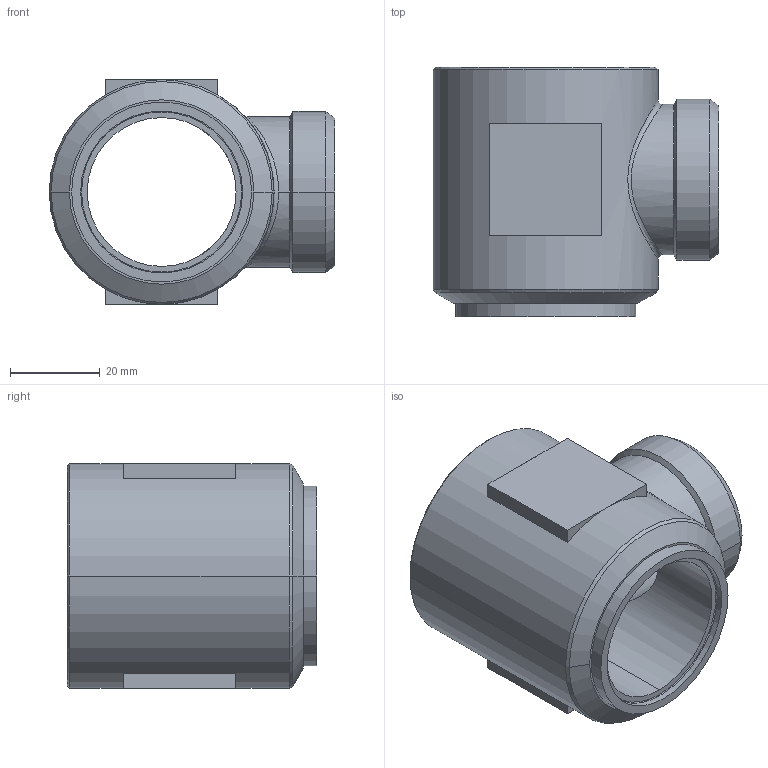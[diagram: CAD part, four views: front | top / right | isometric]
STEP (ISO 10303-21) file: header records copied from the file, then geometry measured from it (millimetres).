
FILE_DESCRIPTION((''),'2;1');
FILE_NAME('101311.stp','2007-10-30T15:40:38',(''),(''),'AutoCAD STEP 2000i','AutoCAD 2000i',', , ');
FILE_SCHEMA(('CONFIG_CONTROL_DESIGN'));
Length unit declared in the file: millimetre
Products named in the file (2): 101311.0; 1094#0
Assembly tree (1 placements, depth 2):
  101311.0
    1094#0
Bounding box: 63.5 x 55.5 x 50 mm (x, y, z)
Volume: 61616.4 mm3; surface area: 19333.7 mm2
Topology: 1 solids, 1 shells, 55 faces, 127 edges, 79 vertices
Faces by surface type: plane 20, cylinder 16, cone 14, bspline 5
Entity records: 2104 total; most frequent: CARTESIAN_POINT 719, DIRECTION 285, ORIENTED_EDGE 254, EDGE_CURVE 127, AXIS2_PLACEMENT_3D 115, VERTEX_POINT 79, EDGE_LOOP 64, CIRCLE 63
